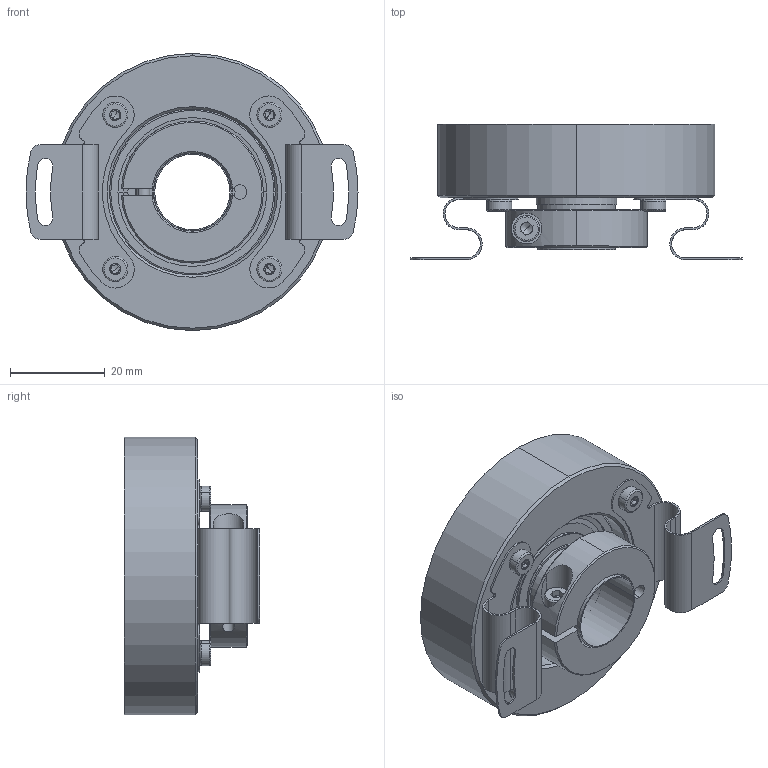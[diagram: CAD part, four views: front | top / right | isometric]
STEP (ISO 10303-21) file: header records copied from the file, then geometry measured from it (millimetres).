
FILE_DESCRIPTION (( 'STEP AP214' ), '1' );
FILE_NAME ('drawing-ucd-hus0-q5b-n.STEP', '2017-02-22T15:13:19', ( '' ), ( '' ), 'SwSTEP 2.0', 'SolidWorks 2015', '' );
FILE_SCHEMA (( 'AUTOMOTIVE_DESIGN' ));
Length unit declared in the file: millimetre
Products named in the file (1): drawing-ucd-hus0-q5b-n
Bounding box: 70.05 x 28.6 x 58.5 mm (x, y, z)
Volume: 37233.7 mm3; surface area: 25132.6 mm2
Topology: 24 solids, 24 shells, 794 faces, 1826 edges, 1043 vertices
Faces by surface type: cone 326, cylinder 259, plane 111, bspline 54, torus 44
Entity records: 32710 total; most frequent: CARTESIAN_POINT 5878, DIRECTION 4075, ORIENTED_EDGE 3524, EDGE_CURVE 1762, AXIS2_PLACEMENT_3D 1712, VERTEX_POINT 1043, CIRCLE 971, EDGE_LOOP 849
